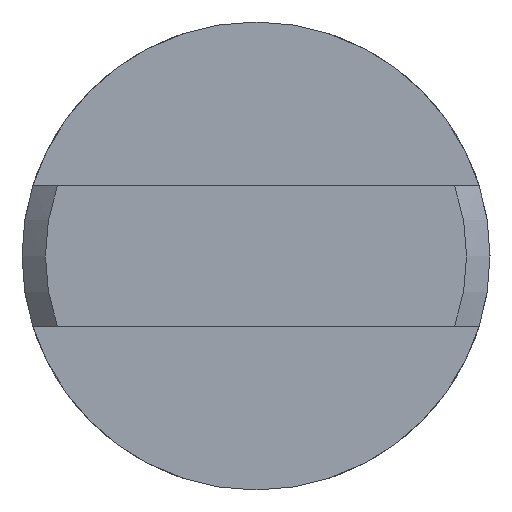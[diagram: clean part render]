
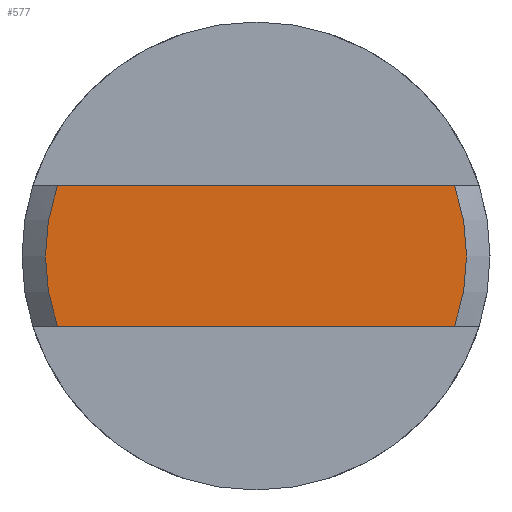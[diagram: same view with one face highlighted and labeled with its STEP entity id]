
A CAD part, left-side view. The second image highlights one B-rep face of the part: STEP entity #577.
In plain terms, the highlighted planar face has unit normal (-1, 0, 0).
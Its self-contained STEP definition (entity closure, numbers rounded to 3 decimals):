
#23 = DIRECTION ( 'NONE',  ( 0., 0., -1. ) ) ;
#75 = EDGE_CURVE ( 'NONE', #914, #314, #432, .T. ) ;
#100 = CARTESIAN_POINT ( 'NONE',  ( -11., 0., 0. ) ) ;
#107 = AXIS2_PLACEMENT_3D ( 'NONE', #100, #746, #23 ) ;
#159 = EDGE_CURVE ( 'NONE', #706, #314, #1037, .T. ) ;
#290 = DIRECTION ( 'NONE',  ( -1., 0., 0. ) ) ;
#296 = VECTOR ( 'NONE', #713, 1000. ) ;
#313 = DIRECTION ( 'NONE',  ( 0., 0., -1. ) ) ;
#314 = VERTEX_POINT ( 'NONE', #993 ) ;
#339 = ORIENTED_EDGE ( 'NONE', *, *, #347, .F. ) ;
#347 = EDGE_CURVE ( 'NONE', #914, #889, #598, .T. ) ;
#355 = CARTESIAN_POINT ( 'NONE',  ( -11., -1.697, -0.6 ) ) ;
#366 = CIRCLE ( 'NONE', #384, 1.8 ) ;
#384 = AXIS2_PLACEMENT_3D ( 'NONE', #558, #290, #313 ) ;
#391 = CARTESIAN_POINT ( 'NONE',  ( -11., 1.697, 0.6 ) ) ;
#400 = ORIENTED_EDGE ( 'NONE', *, *, #75, .T. ) ;
#432 = CIRCLE ( 'NONE', #557, 1.8 ) ;
#481 = VECTOR ( 'NONE', #931, 1000. ) ;
#485 = CARTESIAN_POINT ( 'NONE',  ( -11., 0., 0.6 ) ) ;
#504 = ORIENTED_EDGE ( 'NONE', *, *, #159, .F. ) ;
#537 = DIRECTION ( 'NONE',  ( 0., 0., -1. ) ) ;
#555 = EDGE_LOOP ( 'NONE', ( #504, #923, #339, #400 ) ) ;
#557 = AXIS2_PLACEMENT_3D ( 'NONE', #708, #956, #537 ) ;
#558 = CARTESIAN_POINT ( 'NONE',  ( -11., 0., 0. ) ) ;
#577 = ADVANCED_FACE ( 'NONE', ( #840 ), #852, .F. ) ;
#598 = LINE ( 'NONE', #686, #481 ) ;
#599 = CARTESIAN_POINT ( 'NONE',  ( -11., 1.697, -0.6 ) ) ;
#646 = EDGE_CURVE ( 'NONE', #706, #889, #366, .T. ) ;
#686 = CARTESIAN_POINT ( 'NONE',  ( -11., 0., -0.6 ) ) ;
#706 = VERTEX_POINT ( 'NONE', #391 ) ;
#708 = CARTESIAN_POINT ( 'NONE',  ( -11., 0., 0. ) ) ;
#713 = DIRECTION ( 'NONE',  ( 0., -1., 0. ) ) ;
#746 = DIRECTION ( 'NONE',  ( 1., 0., 0. ) ) ;
#840 = FACE_OUTER_BOUND ( 'NONE', #555, .T. ) ;
#852 = PLANE ( 'NONE',  #107 ) ;
#889 = VERTEX_POINT ( 'NONE', #599 ) ;
#914 = VERTEX_POINT ( 'NONE', #355 ) ;
#923 = ORIENTED_EDGE ( 'NONE', *, *, #646, .T. ) ;
#931 = DIRECTION ( 'NONE',  ( 0., 1., 0. ) ) ;
#956 = DIRECTION ( 'NONE',  ( -1., 0., 0. ) ) ;
#993 = CARTESIAN_POINT ( 'NONE',  ( -11., -1.697, 0.6 ) ) ;
#1037 = LINE ( 'NONE', #485, #296 ) ;
